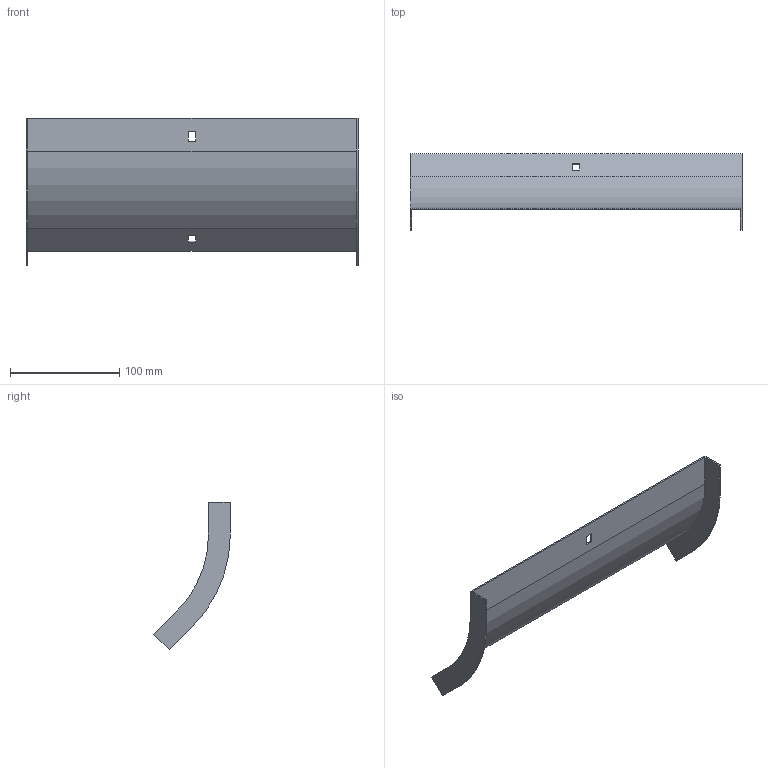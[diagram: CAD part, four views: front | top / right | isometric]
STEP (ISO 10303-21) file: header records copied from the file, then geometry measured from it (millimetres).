
FILE_DESCRIPTION (( 'STEP AP214' ), '1' );
FILE_NAME ('31G1P300.step', '2025-02-21T12:47:58', ( '' ), ( '' ), 'SwSTEP 2.0', 'SolidWorks 2023', '' );
FILE_SCHEMA (( 'AUTOMOTIVE_DESIGN' ));
Length unit declared in the file: millimetre
Products named in the file (1): 31G1P300
Bounding box: 304 x 70.06 x 135.01 mm (x, y, z)
Volume: 70822.2 mm3; surface area: 96003.1 mm2
Topology: 1 solids, 1 shells, 26 faces, 72 edges, 48 vertices
Faces by surface type: plane 22, cylinder 4
Entity records: 855 total; most frequent: CARTESIAN_POINT 147, ORIENTED_EDGE 144, DIRECTION 134, EDGE_CURVE 72, LINE 64, VECTOR 64, VERTEX_POINT 48, AXIS2_PLACEMENT_3D 35
